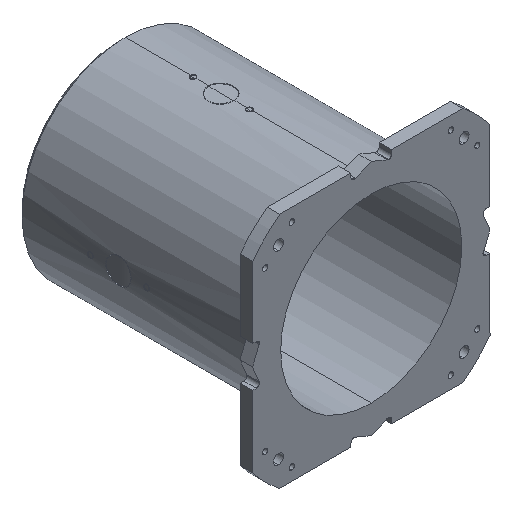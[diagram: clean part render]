
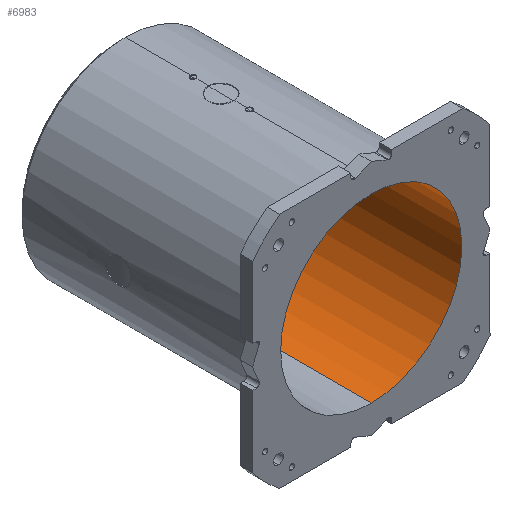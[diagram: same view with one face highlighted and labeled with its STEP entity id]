
A CAD part, isometric view. The second image highlights one B-rep face of the part: STEP entity #6983.
In plain terms, the highlighted cylindrical face has radius 145 mm (diameter 290 mm), a partial arc.
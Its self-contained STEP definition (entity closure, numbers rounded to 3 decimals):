
#37 = VECTOR ( 'NONE', #9577, 1000. ) ;
#46 = LINE ( 'NONE', #97, #9612 ) ;
#97 = CARTESIAN_POINT ( 'NONE',  ( 0., 0., 145. ) ) ;
#164 = ORIENTED_EDGE ( 'NONE', *, *, #6367, .F. ) ;
#309 = VERTEX_POINT ( 'NONE', #3092 ) ;
#380 = CYLINDRICAL_SURFACE ( 'NONE', #1960, 145. ) ;
#424 = CARTESIAN_POINT ( 'NONE',  ( 0., 382., 145. ) ) ;
#706 = VERTEX_POINT ( 'NONE', #4290 ) ;
#769 = DIRECTION ( 'NONE',  ( 0., 0., 1. ) ) ;
#983 = DIRECTION ( 'NONE',  ( 0., 0., 1. ) ) ;
#1173 = VERTEX_POINT ( 'NONE', #424 ) ;
#1281 = EDGE_CURVE ( 'NONE', #706, #309, #8814, .T. ) ;
#1405 = ORIENTED_EDGE ( 'NONE', *, *, #1281, .F. ) ;
#1734 = VERTEX_POINT ( 'NONE', #6611 ) ;
#1960 = AXIS2_PLACEMENT_3D ( 'NONE', #9565, #4889, #983 ) ;
#3092 = CARTESIAN_POINT ( 'NONE',  ( 0., 0., -145. ) ) ;
#3351 = EDGE_LOOP ( 'NONE', ( #164, #1405, #6845, #6910 ) ) ;
#4134 = CIRCLE ( 'NONE', #9775, 145. ) ;
#4210 = DIRECTION ( 'NONE',  ( 0., 0., 1. ) ) ;
#4290 = CARTESIAN_POINT ( 'NONE',  ( 0., 0., 145. ) ) ;
#4889 = DIRECTION ( 'NONE',  ( 0., 1., 0. ) ) ;
#4933 = FACE_OUTER_BOUND ( 'NONE', #3351, .T. ) ;
#5048 = CARTESIAN_POINT ( 'NONE',  ( 0., 0., -145. ) ) ;
#6031 = DIRECTION ( 'NONE',  ( 0., 1., 0. ) ) ;
#6367 = EDGE_CURVE ( 'NONE', #309, #1734, #9488, .T. ) ;
#6581 = DIRECTION ( 'NONE',  ( 0., 1., 0. ) ) ;
#6611 = CARTESIAN_POINT ( 'NONE',  ( 0., 382., -145. ) ) ;
#6636 = CARTESIAN_POINT ( 'NONE',  ( 0., 0., 0. ) ) ;
#6845 = ORIENTED_EDGE ( 'NONE', *, *, #7971, .T. ) ;
#6910 = ORIENTED_EDGE ( 'NONE', *, *, #7578, .T. ) ;
#6983 = ADVANCED_FACE ( 'NONE', ( #4933 ), #380, .F. ) ;
#7224 = AXIS2_PLACEMENT_3D ( 'NONE', #6636, #6581, #4210 ) ;
#7578 = EDGE_CURVE ( 'NONE', #1173, #1734, #4134, .T. ) ;
#7631 = DIRECTION ( 'NONE',  ( 0., 1., 0. ) ) ;
#7971 = EDGE_CURVE ( 'NONE', #706, #1173, #46, .T. ) ;
#8814 = CIRCLE ( 'NONE', #7224, 145. ) ;
#9063 = CARTESIAN_POINT ( 'NONE',  ( 0., 382., 0. ) ) ;
#9488 = LINE ( 'NONE', #5048, #37 ) ;
#9565 = CARTESIAN_POINT ( 'NONE',  ( 0., 0., 0. ) ) ;
#9577 = DIRECTION ( 'NONE',  ( 0., 1., 0. ) ) ;
#9612 = VECTOR ( 'NONE', #7631, 1000. ) ;
#9775 = AXIS2_PLACEMENT_3D ( 'NONE', #9063, #6031, #769 ) ;
